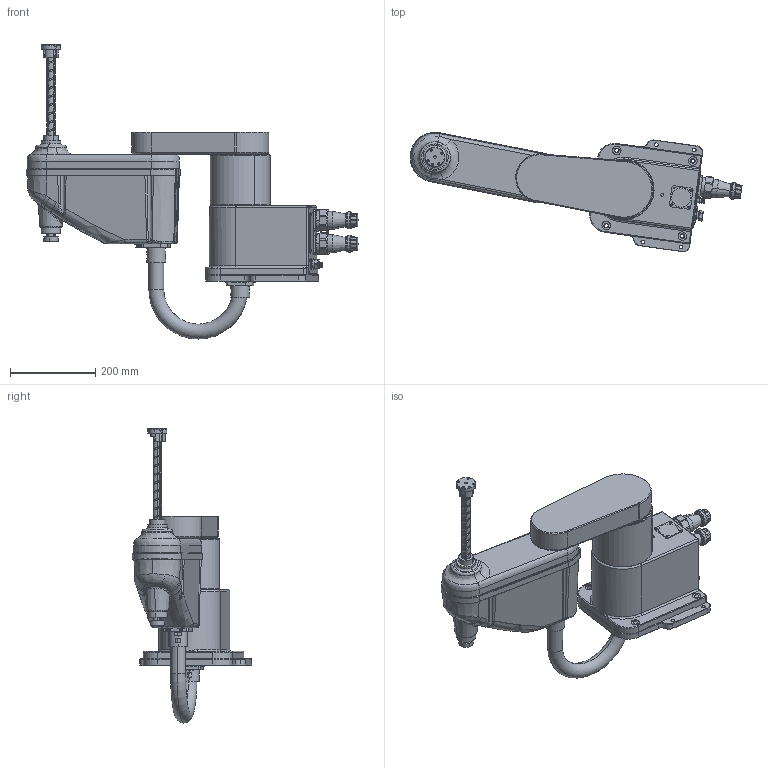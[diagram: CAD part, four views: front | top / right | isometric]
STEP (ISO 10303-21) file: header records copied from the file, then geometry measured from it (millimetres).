
FILE_DESCRIPTION((''),'2;1');
FILE_NAME('ASM0002_ASM','2026-05-25T11:14:18',('EBDGC-16'),(''),'CREO PARAMETRIC BY PTC INC, 2021063','CREO PARAMETRIC BY PTC INC, 2021063','');
FILE_SCHEMA(('AUTOMOTIVE_DESIGN { 1 0 10303 214 1 1 1 1 }'));
Products named in the file (5): PRT0001; PRT0002; PRT0003; PRT0004; ASM0002_ASM
Assembly tree (4 placements, depth 2):
  ASM0002_ASM
    PRT0001
    PRT0002
    PRT0003
    PRT0004
Bounding box: 777.99 x 279.42 x 689.19 mm (x, y, z)
Surface area: 1297181.2 mm2 (no closed solid volume)
Topology: 0 solids, 191 shells, 1602 faces, 6104 edges, 4475 vertices
Faces by surface type: cylinder 630, plane 543, cone 180, torus 137, bspline 85, sphere 18, extrusion 5, revolution 4
Entity records: 89232 total; most frequent: CARTESIAN_POINT 30113, DIRECTION 10675, ORIENTED_EDGE 9042, EDGE_CURVE 6050, VERTEX_POINT 4475, AXIS2_PLACEMENT_3D 4170, CIRCLE 2604, VECTOR 2316
